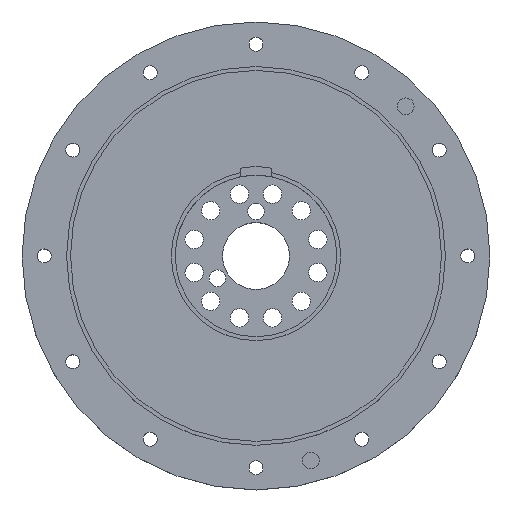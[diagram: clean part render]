
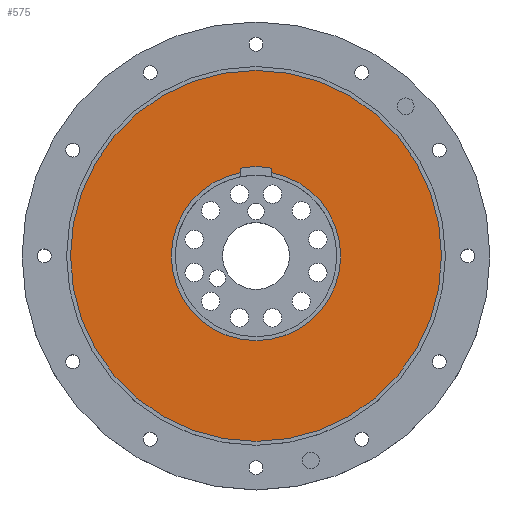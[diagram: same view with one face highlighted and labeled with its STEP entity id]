
A CAD part, top view. The second image highlights one B-rep face of the part: STEP entity #575.
In plain terms, the highlighted planar face has unit normal (0, 0, 1).
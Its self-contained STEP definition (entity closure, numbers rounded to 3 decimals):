
#19 = VERTEX_POINT ( 'NONE', #1126 ) ;
#40 = DIRECTION ( 'NONE',  ( 0., 0., 1. ) ) ;
#45 = CIRCLE ( 'NONE', #157, 15.2 ) ;
#49 = CARTESIAN_POINT ( 'NONE',  ( 0., 0., 13.3 ) ) ;
#65 = DIRECTION ( 'NONE',  ( 1., 0., 0. ) ) ;
#84 = EDGE_LOOP ( 'NONE', ( #2064, #1943, #1882, #1175, #565, #2689 ) ) ;
#103 = LINE ( 'NONE', #967, #3152 ) ;
#119 = DIRECTION ( 'NONE',  ( 0., 1., 0. ) ) ;
#157 = AXIS2_PLACEMENT_3D ( 'NONE', #49, #1942, #65 ) ;
#242 = DIRECTION ( 'NONE',  ( 0., 0., 1. ) ) ;
#268 = CARTESIAN_POINT ( 'NONE',  ( -15.2, 0., 13.3 ) ) ;
#366 = ORIENTED_EDGE ( 'NONE', *, *, #756, .T. ) ;
#451 = CARTESIAN_POINT ( 'NONE',  ( 0., 0., 13.3 ) ) ;
#496 = EDGE_CURVE ( 'NONE', #19, #859, #1156, .T. ) ;
#507 = DIRECTION ( 'NONE',  ( 1., 0., 0. ) ) ;
#565 = ORIENTED_EDGE ( 'NONE', *, *, #496, .F. ) ;
#575 = ADVANCED_FACE ( 'NONE', ( #3468, #2472 ), #1117, .T. ) ;
#611 = DIRECTION ( 'NONE',  ( 1., 0., 0. ) ) ;
#697 = DIRECTION ( 'NONE',  ( 1., 0., 0. ) ) ;
#711 = VERTEX_POINT ( 'NONE', #2316 ) ;
#756 = EDGE_CURVE ( 'NONE', #2591, #3418, #3097, .T. ) ;
#763 = DIRECTION ( 'NONE',  ( 0., 0., 1. ) ) ;
#845 = EDGE_LOOP ( 'NONE', ( #2382, #366 ) ) ;
#859 = VERTEX_POINT ( 'NONE', #268 ) ;
#900 = CARTESIAN_POINT ( 'NONE',  ( 2.8, 15.753, 13.3 ) ) ;
#953 = AXIS2_PLACEMENT_3D ( 'NONE', #451, #242, #697 ) ;
#955 = AXIS2_PLACEMENT_3D ( 'NONE', #1554, #763, #2122 ) ;
#967 = CARTESIAN_POINT ( 'NONE',  ( 2.8, 0., 13.3 ) ) ;
#1092 = VERTEX_POINT ( 'NONE', #900 ) ;
#1117 = PLANE ( 'NONE',  #1597 ) ;
#1126 = CARTESIAN_POINT ( 'NONE',  ( -2.8, 14.94, 13.3 ) ) ;
#1156 = CIRCLE ( 'NONE', #1614, 15.2 ) ;
#1175 = ORIENTED_EDGE ( 'NONE', *, *, #1720, .F. ) ;
#1244 = DIRECTION ( 'NONE',  ( 0., 0., 1. ) ) ;
#1437 = EDGE_CURVE ( 'NONE', #711, #1092, #103, .T. ) ;
#1440 = CARTESIAN_POINT ( 'NONE',  ( -2.8, 15.753, 13.3 ) ) ;
#1456 = CIRCLE ( 'NONE', #953, 16. ) ;
#1493 = DIRECTION ( 'NONE',  ( 0., 0., 1. ) ) ;
#1516 = CIRCLE ( 'NONE', #3311, 33.3 ) ;
#1554 = CARTESIAN_POINT ( 'NONE',  ( 0., 0., 13.3 ) ) ;
#1597 = AXIS2_PLACEMENT_3D ( 'NONE', #3004, #40, #507 ) ;
#1614 = AXIS2_PLACEMENT_3D ( 'NONE', #2020, #2870, #2603 ) ;
#1689 = CIRCLE ( 'NONE', #2589, 15.2 ) ;
#1720 = EDGE_CURVE ( 'NONE', #859, #3490, #45, .T. ) ;
#1743 = VECTOR ( 'NONE', #2440, 1000. ) ;
#1789 = CARTESIAN_POINT ( 'NONE',  ( 15.2, 0., 13.3 ) ) ;
#1882 = ORIENTED_EDGE ( 'NONE', *, *, #1941, .F. ) ;
#1884 = VERTEX_POINT ( 'NONE', #1440 ) ;
#1941 = EDGE_CURVE ( 'NONE', #3490, #711, #1689, .T. ) ;
#1942 = DIRECTION ( 'NONE',  ( 0., 0., 1. ) ) ;
#1943 = ORIENTED_EDGE ( 'NONE', *, *, #1437, .F. ) ;
#2020 = CARTESIAN_POINT ( 'NONE',  ( 0., 0., 13.3 ) ) ;
#2024 = EDGE_CURVE ( 'NONE', #3418, #2591, #1516, .T. ) ;
#2043 = EDGE_CURVE ( 'NONE', #1092, #1884, #1456, .T. ) ;
#2064 = ORIENTED_EDGE ( 'NONE', *, *, #2043, .F. ) ;
#2122 = DIRECTION ( 'NONE',  ( 1., 0., 0. ) ) ;
#2135 = EDGE_CURVE ( 'NONE', #19, #1884, #2196, .T. ) ;
#2196 = LINE ( 'NONE', #3487, #1743 ) ;
#2289 = CARTESIAN_POINT ( 'NONE',  ( 0., 0., 13.3 ) ) ;
#2316 = CARTESIAN_POINT ( 'NONE',  ( 2.8, 14.94, 13.3 ) ) ;
#2382 = ORIENTED_EDGE ( 'NONE', *, *, #2024, .T. ) ;
#2440 = DIRECTION ( 'NONE',  ( 0., 1., 0. ) ) ;
#2472 = FACE_BOUND ( 'NONE', #84, .T. ) ;
#2517 = CARTESIAN_POINT ( 'NONE',  ( -33.3, 0., 13.3 ) ) ;
#2554 = CARTESIAN_POINT ( 'NONE',  ( 33.3, 0., 13.3 ) ) ;
#2589 = AXIS2_PLACEMENT_3D ( 'NONE', #2289, #1493, #611 ) ;
#2591 = VERTEX_POINT ( 'NONE', #2517 ) ;
#2603 = DIRECTION ( 'NONE',  ( 1., 0., 0. ) ) ;
#2689 = ORIENTED_EDGE ( 'NONE', *, *, #2135, .T. ) ;
#2870 = DIRECTION ( 'NONE',  ( 0., 0., 1. ) ) ;
#3004 = CARTESIAN_POINT ( 'NONE',  ( 0., 0., 13.3 ) ) ;
#3097 = CIRCLE ( 'NONE', #955, 33.3 ) ;
#3152 = VECTOR ( 'NONE', #119, 1000. ) ;
#3168 = CARTESIAN_POINT ( 'NONE',  ( 0., 0., 13.3 ) ) ;
#3311 = AXIS2_PLACEMENT_3D ( 'NONE', #3168, #1244, #3416 ) ;
#3416 = DIRECTION ( 'NONE',  ( 1., 0., 0. ) ) ;
#3418 = VERTEX_POINT ( 'NONE', #2554 ) ;
#3468 = FACE_OUTER_BOUND ( 'NONE', #845, .T. ) ;
#3487 = CARTESIAN_POINT ( 'NONE',  ( -2.8, 0., 13.3 ) ) ;
#3490 = VERTEX_POINT ( 'NONE', #1789 ) ;
